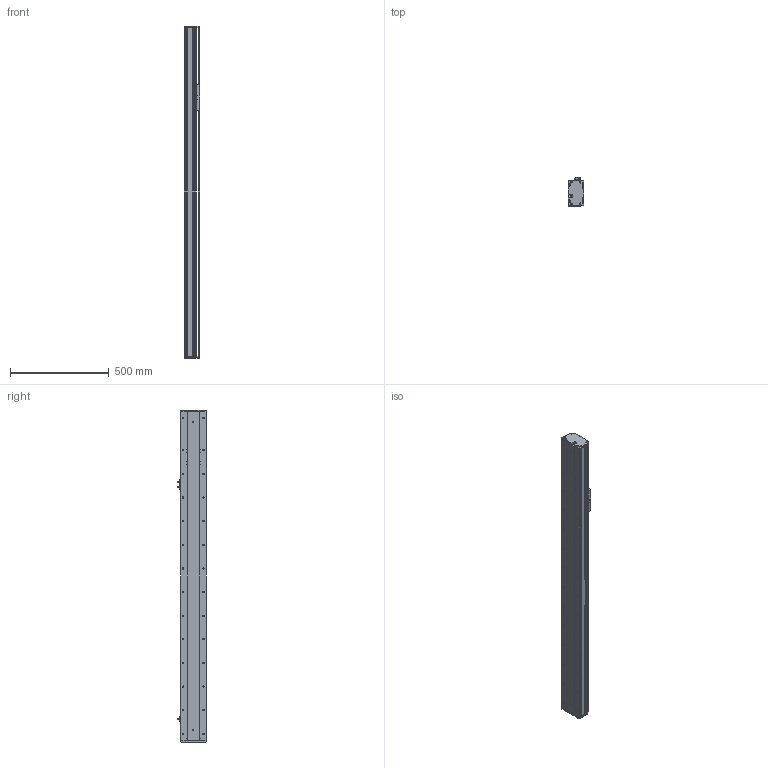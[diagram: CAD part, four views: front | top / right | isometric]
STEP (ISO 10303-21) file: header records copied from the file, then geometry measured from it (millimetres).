
FILE_DESCRIPTION (( 'STEP AP214' ), '1' );
FILE_NAME ('KSD130S-P2010-S1200-M-CM.STEP', '2019-09-10T07:25:34', ( '微软用户' ), ( '微软中国' ), 'SwSTEP 2.0', 'SolidWorks 2014', '' );
FILE_SCHEMA (( 'AUTOMOTIVE_DESIGN' ));
Length unit declared in the file: millimetre
Products named in the file (8): 130宽马达安装板半封闭-内装; U倰嫖萇EEㄜSX672; 覜茼え100遵圉猾敕; 130宽盖板半封闭丝杠内装-1200行程; 130宽滚珠丝杆安装板半封闭-内装-20丝杆; 130宽端盖半封闭-内装; 130宽底板半封闭丝杠内装-1200行程; KSD130S-P2010-S1200-M-CM
Assembly tree (9 placements, depth 2):
  KSD130S-P2010-S1200-M-CM
    130宽底板半封闭丝杠内装-1200行程
    130宽端盖半封闭-内装
    130宽滚珠丝杆安装板半封闭-内装-20丝杆
    130宽盖板半封闭丝杠内装-1200行程
    覜茼え100遵圉猾敕
    U倰嫖萇EEㄜSX672  x3
    130宽马达安装板半封闭-内装
Bounding box: 80 x 143.7 x 1685 mm (x, y, z)
Volume: 4893767.4 mm3; surface area: 1506724 mm2
Topology: 9 solids, 9 shells, 1233 faces, 3644 edges, 2298 vertices
Faces by surface type: cylinder 576, plane 467, cone 190
Entity records: 41536 total; most frequent: CARTESIAN_POINT 8295, DIRECTION 5998, ORIENTED_EDGE 5904, EDGE_CURVE 2952, AXIS2_PLACEMENT_3D 2205, VERTEX_POINT 1922, LINE 1588, VECTOR 1588
